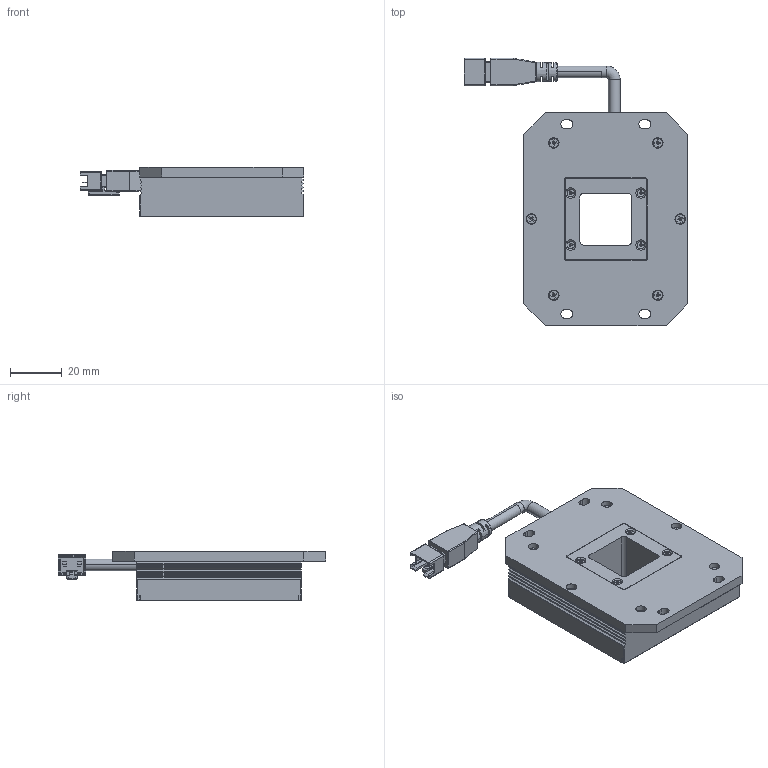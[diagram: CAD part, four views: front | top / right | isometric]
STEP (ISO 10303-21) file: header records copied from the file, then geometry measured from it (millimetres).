
FILE_DESCRIPTION((''),'2;1');
FILE_NAME('LS-LBES-H-50-50-X2','2022-11-04T17:20:18',('LumaSpec Vision'),('LumaSpec Vision'),'CREO PARAMETRIC BY PTC INC, 2020044','CREO PARAMETRIC BY PTC INC, 2020044','');
FILE_SCHEMA(('AUTOMOTIVE_DESIGN { 1 0 10303 214 1 1 1 1 }'));
Length unit declared in the file: millimetre
Products named in the file (1): PRT0002
Bounding box: 86.15 x 102.85 x 19 mm (x, y, z)
Volume: 74190.4 mm3; surface area: 20636.5 mm2
Topology: 1 solids, 23 shells, 1037 faces, 2543 edges, 1568 vertices
Faces by surface type: plane 637, cylinder 277, cone 77, torus 30, sphere 8, bspline 8
Entity records: 31863 total; most frequent: CARTESIAN_POINT 5987, DIRECTION 5095, ORIENTED_EDGE 5054, EDGE_CURVE 2527, AXIS2_PLACEMENT_3D 1717, VECTOR 1661, LINE 1661, VERTEX_POINT 1568
